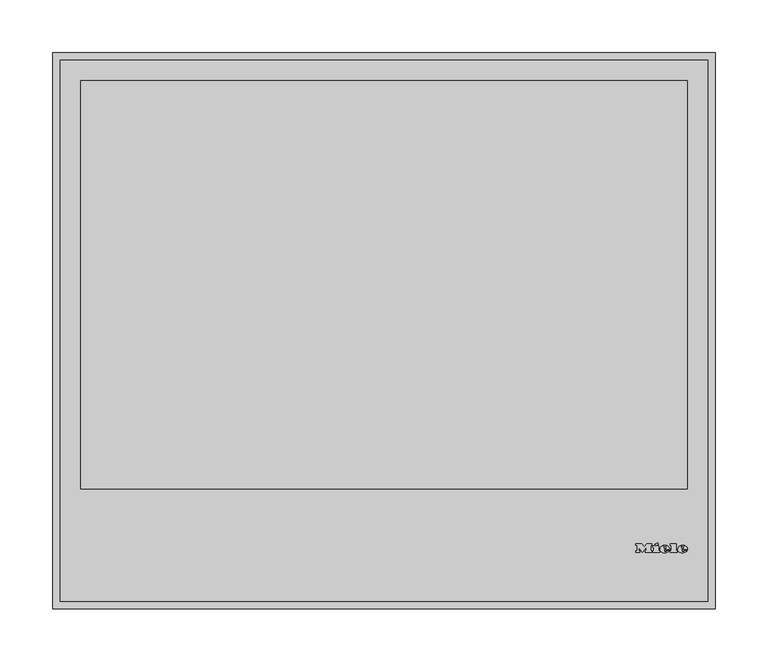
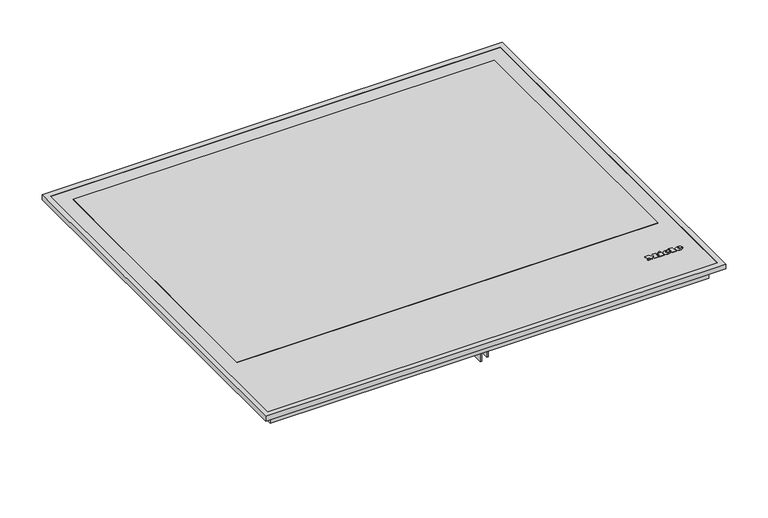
"""IFC4 building model written with IfcOpenShell, lengths in millimetres: proxy geometry, 11128710_D_KM7667FR : 26766700_D_11128710_KM7667FR."""

from ifc_helpers import new_model, si_unit, point, frame, frame_2d, origin, place, context, project, spatial, polyline, circle_curve, ellipse_curve, trimmed, segment, composite_curve, outline, extrude, faceted_brep, source, transform, mapped, element, save
from ifc_brep_helpers import plane_surface, cylinder_surface, revolved_surface, extruded_surface, advanced_brep


def specialty_equipment_535f46d4(model_context):
    return source(origin(), model_context, "Body", "SolidModel", [
        advanced_brep(
        [(281.56, 55.3948833, 6.4802537), (281.56, 56.2028828, 6.4811551), (286.912, 56.2028828, 6.4811551), (277.6, 56.2028828, 6.4811551), (279.8, 53.4988845, 6.4781386), (286.776, 55.3948833, 6.4802537), (284.36, 55.3948833, 6.4802537), (282.456, 54.4988838, 6.4792542), (281.56, 57.2268821, 6.4822974), (281.56, 58.0988816, 6.4832701), (282.928, 58.0988816, 6.4832701), (282.928, 57.2268821, 6.4822974), (281.56, 55.3959988, 5.4802543), (282.456, 54.4999994, 5.4792548), (284.36, 55.3959988, 5.4802543), (286.776, 55.3959988, 5.4802543), (279.8, 53.5, 5.4781393), (277.6, 56.2039983, 5.4811557), (286.912, 56.2039983, 5.4811557), (281.56, 56.2039983, 5.4811557), (281.56, 57.2279977, 5.482298), (282.928, 57.2279977, 5.482298), (282.928, 58.0999971, 5.4832707), (281.56, 58.0999971, 5.4832707)],
        [
            (0, 1),
            (1, 2),
            (2, 3, ellipse_curve(frame((282.256, 56.2028828, 6.4811551), z_axis=(0.0, -0.0011155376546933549, 0.9999993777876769), x_axis=(-1.0, 0.0, 0.0)), 4.656, 3.848)),
            (3, 4, circle_curve(frame((280.6960436, 56.4748826, 6.4814585), z_axis=(0.0, -0.0011155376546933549, 0.9999993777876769), x_axis=(0.0, -0.9999993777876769, -0.0011155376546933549)), 3.1079688)),
            (4, 5, circle_curve(frame((282.1627936, 58.5868813, 6.4838145), z_axis=(0.0, -0.0011155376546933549, 0.9999993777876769), x_axis=(0.0, -0.9999993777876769, -0.0011155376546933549)), 5.6098607)),
            (5, 6),
            (6, 7, circle_curve(frame((282.8470588, 56.1388828, 6.4810837), z_axis=(0.0, 0.0011155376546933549, -0.9999993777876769), x_axis=(0.0, -0.9999993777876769, -0.0011155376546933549)), 1.6859795)),
            (7, 0, circle_curve(frame((282.456, 55.3948833, 6.4802537), z_axis=(0.0, 0.0011155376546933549, -0.9999993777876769), x_axis=(0.0, -0.9999993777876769, -0.0011155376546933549)), 0.896)),
            (8, 9),
            (9, 10, circle_curve(frame((282.244, 58.0988816, 6.4832701), z_axis=(0.0, 0.0011155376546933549, -0.9999993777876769), x_axis=(0.0, -0.9999993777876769, -0.0011155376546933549)), 0.684)),
            (10, 11),
            (11, 8),
            (12, 13, circle_curve(frame((282.456, 55.3959988, 5.4802543), z_axis=(0.0, -0.0011155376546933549, 0.9999993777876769), x_axis=(0.0, -0.9999993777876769, -0.0011155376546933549)), 0.896)),
            (13, 14, circle_curve(frame((282.8470588, 56.1399984, 5.4810843), z_axis=(0.0, -0.0011155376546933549, 0.9999993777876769), x_axis=(0.0, -0.9999993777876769, -0.0011155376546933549)), 1.6859795)),
            (14, 15),
            (15, 16, circle_curve(frame((282.1627936, 58.5879968, 5.4838151), z_axis=(0.0, 0.0011155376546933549, -0.9999993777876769), x_axis=(0.0, -0.9999993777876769, -0.0011155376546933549)), 5.6098607)),
            (16, 17, circle_curve(frame((280.6960436, 56.4759981, 5.4814591), z_axis=(0.0, 0.0011155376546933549, -0.9999993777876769), x_axis=(0.0, -0.9999993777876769, -0.0011155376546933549)), 3.1079688)),
            (17, 18, ellipse_curve(frame((282.256, 56.2039983, 5.4811557), z_axis=(0.0, 0.0011155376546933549, -0.9999993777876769), x_axis=(-1.0, 0.0, 0.0)), 4.656, 3.848)),
            (18, 19),
            (19, 12),
            (20, 21),
            (21, 22),
            (22, 23, circle_curve(frame((282.244, 58.0999971, 5.4832707), z_axis=(0.0, -0.0011155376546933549, 0.9999993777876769), x_axis=(0.0, -0.9999993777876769, -0.0011155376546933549)), 0.684)),
            (23, 20),
            (0, 12),
            (19, 1),
            (18, 2),
            (5, 15),
            (14, 6),
            (17, 3),
            (13, 7),
            (16, 4),
            (8, 20),
            (23, 9),
            (22, 10),
            (21, 11),
        ],
        [
            plane_surface(frame((281.56, 56.2028828, 6.4811551), z_axis=(0.0, -0.0011155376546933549, 0.9999993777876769), x_axis=(0.0, 0.9999993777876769, 0.0011155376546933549))),
            plane_surface(frame((281.56, 56.2039983, 5.4811557), z_axis=(0.0, 0.0011155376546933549, -0.9999993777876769), x_axis=(0.0, -0.9999993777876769, -0.0011155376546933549))),
            plane_surface(frame((281.56, 55.3948833, 6.4802537), z_axis=(1.0000000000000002, 0.0, 0.0), x_axis=(0.0, 0.001115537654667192, -0.999999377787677))),
            plane_surface(frame((281.56, 56.2028828, 6.4811551), z_axis=(0.0, -0.999999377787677, -0.001115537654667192), x_axis=(0.0, 0.001115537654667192, -0.999999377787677))),
            plane_surface(frame((286.776, 55.3948833, 6.4802537), z_axis=(0.0, 0.999999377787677, 0.001115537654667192), x_axis=(0.0, 0.001115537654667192, -0.999999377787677))),
            extruded_surface(trimmed(ellipse_curve(frame((282.256, 56.2051139, 4.4811563), z_axis=(0.0, -0.0011155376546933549, 0.9999993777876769), x_axis=(-1.0, 0.0, 0.0)), 4.656, 3.848), [point((286.912, 56.2051139, 4.4811563))], [point((277.6, 56.2051139, 4.4811563))], True, "CARTESIAN"), (0.0, -0.001115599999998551, 0.9999994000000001), 1.00000002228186),
            revolved_surface(polyline([(282.8470588, 54.454019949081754, 5.479203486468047), (282.8470588, 54.45290441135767, 6.4792029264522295)]), (282.8470588, 56.1399984, 5.4810843), (0.0, 0.0011155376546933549, -0.9999993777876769)),
            revolved_surface(polyline([(282.456, 54.49999935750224, 5.479254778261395), (282.456, 54.49888381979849, 6.479254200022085)]), (282.456, 55.3959988, 5.4802543), (0.0, 0.0011155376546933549, -0.9999993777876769)),
            cylinder_surface(frame((280.6960436, 56.4759981, 5.4814591), z_axis=(0.0, -0.0011155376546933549, 0.9999993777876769), x_axis=(0.0, -0.9999993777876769, -0.0011155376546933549)), 3.1079688),
            cylinder_surface(frame((282.1627936, 58.5879968, 5.4838151), z_axis=(0.0, -0.0011155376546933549, 0.9999993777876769), x_axis=(0.0, -0.9999993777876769, -0.0011155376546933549)), 5.6098607),
            plane_surface(frame((281.56, 57.2268821, 6.4822974), z_axis=(1.0000000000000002, 0.0, 0.0), x_axis=(0.0, 0.001115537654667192, -0.999999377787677))),
            revolved_surface(polyline([(282.244, 57.415997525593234, 5.48250767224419), (282.244, 57.41488198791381, 6.482507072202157)]), (282.244, 58.0999971, 5.4832707), (0.0, 0.0011155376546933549, -0.9999993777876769)),
            plane_surface(frame((282.928, 58.0988816, 6.4832701), z_axis=(-1.0000000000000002, 0.0, 0.0), x_axis=(0.0, 0.001115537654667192, -0.999999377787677))),
            plane_surface(frame((282.928, 57.2268821, 6.4822974), z_axis=(0.0, 0.999999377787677, 0.001115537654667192), x_axis=(0.0, 0.001115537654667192, -0.999999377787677))),
        ],
        [
            (0, [[1, 2, 3, 4, 5, 6, 7, 8], [9, 10, 11, 12]]),
            (1, [[13, 14, 15, 16, 17, 18, 19, 20], [21, 22, 23, 24]]),
            (2, [[-1, 25, -20, 26]]),
            (3, [[-2, -26, -19, 27]]),
            (4, [[-6, 28, -15, 29]]),
            (5, [[-3, -27, -18, 30]]),
            (6, [[-7, -29, -14, 31]]),
            (7, [[-8, -31, -13, -25]]),
            (8, [[-4, -30, -17, 32]]),
            (9, [[-5, -32, -16, -28]]),
            (10, [[-9, 33, -24, 34]]),
            (11, [[-10, -34, -23, 35]]),
            (12, [[-11, -35, -22, 36]]),
            (13, [[-12, -36, -21, -33]]),
        ],
    ),
        advanced_brep(
        [(264.864, 55.3948833, 6.4802537), (264.864, 56.2028828, 6.4811551), (270.216, 56.2028828, 6.4811551), (260.904, 56.2028828, 6.4811551), (263.104, 53.4988845, 6.4781386), (270.08, 55.3948833, 6.4802537), (267.664, 55.3948833, 6.4802537), (265.76, 54.4988838, 6.4792542), (264.864, 57.2268821, 6.4822974), (264.864, 58.0988816, 6.4832701), (266.232, 58.0988816, 6.4832701), (266.232, 57.2268821, 6.4822974), (264.864, 55.3959988, 5.4802543), (265.76, 54.4999994, 5.4792548), (267.664, 55.3959988, 5.4802543), (270.08, 55.3959988, 5.4802543), (263.104, 53.5, 5.4781393), (260.904, 56.2039983, 5.4811557), (270.216, 56.2039983, 5.4811557), (264.864, 56.2039983, 5.4811557), (264.864, 57.2279977, 5.482298), (266.232, 57.2279977, 5.482298), (266.232, 58.0999971, 5.4832707), (264.864, 58.0999971, 5.4832707)],
        [
            (0, 1),
            (1, 2),
            (2, 3, ellipse_curve(frame((265.56, 56.2028828, 6.4811551), z_axis=(0.0, -0.0011155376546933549, 0.9999993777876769), x_axis=(-1.0, 0.0, 0.0)), 4.656, 3.848)),
            (3, 4, circle_curve(frame((264.0000436, 56.4748826, 6.4814585), z_axis=(0.0, -0.0011155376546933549, 0.9999993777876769), x_axis=(0.0, -0.9999993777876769, -0.0011155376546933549)), 3.1079688)),
            (4, 5, circle_curve(frame((265.4667936, 58.5868813, 6.4838145), z_axis=(0.0, -0.0011155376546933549, 0.9999993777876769), x_axis=(0.0, -0.9999993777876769, -0.0011155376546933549)), 5.6098607)),
            (5, 6),
            (6, 7, circle_curve(frame((266.1510588, 56.1388828, 6.4810837), z_axis=(0.0, 0.0011155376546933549, -0.9999993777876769), x_axis=(0.0, -0.9999993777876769, -0.0011155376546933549)), 1.6859795)),
            (7, 0, circle_curve(frame((265.76, 55.3948833, 6.4802537), z_axis=(0.0, 0.0011155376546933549, -0.9999993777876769), x_axis=(0.0, -0.9999993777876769, -0.0011155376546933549)), 0.896)),
            (8, 9),
            (9, 10, circle_curve(frame((265.548, 58.0988816, 6.4832701), z_axis=(0.0, 0.0011155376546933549, -0.9999993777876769), x_axis=(0.0, -0.9999993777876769, -0.0011155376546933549)), 0.684)),
            (10, 11),
            (11, 8),
            (12, 13, circle_curve(frame((265.76, 55.3959988, 5.4802543), z_axis=(0.0, -0.0011155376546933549, 0.9999993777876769), x_axis=(0.0, -0.9999993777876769, -0.0011155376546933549)), 0.896)),
            (13, 14, circle_curve(frame((266.1510588, 56.1399984, 5.4810843), z_axis=(0.0, -0.0011155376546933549, 0.9999993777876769), x_axis=(0.0, -0.9999993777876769, -0.0011155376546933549)), 1.6859795)),
            (14, 15),
            (15, 16, circle_curve(frame((265.4667936, 58.5879968, 5.4838151), z_axis=(0.0, 0.0011155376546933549, -0.9999993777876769), x_axis=(0.0, -0.9999993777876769, -0.0011155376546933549)), 5.6098607)),
            (16, 17, circle_curve(frame((264.0000436, 56.4759981, 5.4814591), z_axis=(0.0, 0.0011155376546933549, -0.9999993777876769), x_axis=(0.0, -0.9999993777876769, -0.0011155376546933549)), 3.1079688)),
            (17, 18, ellipse_curve(frame((265.56, 56.2039983, 5.4811557), z_axis=(0.0, 0.0011155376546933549, -0.9999993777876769), x_axis=(-1.0, 0.0, 0.0)), 4.656, 3.848)),
            (18, 19),
            (19, 12),
            (20, 21),
            (21, 22),
            (22, 23, circle_curve(frame((265.548, 58.0999971, 5.4832707), z_axis=(0.0, -0.0011155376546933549, 0.9999993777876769), x_axis=(0.0, -0.9999993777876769, -0.0011155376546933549)), 0.684)),
            (23, 20),
            (0, 12),
            (19, 1),
            (18, 2),
            (5, 15),
            (14, 6),
            (17, 3),
            (13, 7),
            (16, 4),
            (8, 20),
            (23, 9),
            (22, 10),
            (21, 11),
        ],
        [
            plane_surface(frame((264.864, 56.2028828, 6.4811551), z_axis=(0.0, -0.0011155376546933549, 0.9999993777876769), x_axis=(0.0, 0.9999993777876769, 0.0011155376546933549))),
            plane_surface(frame((264.864, 56.2039983, 5.4811557), z_axis=(0.0, 0.0011155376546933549, -0.9999993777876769), x_axis=(0.0, -0.9999993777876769, -0.0011155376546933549))),
            plane_surface(frame((264.864, 55.3948833, 6.4802537), z_axis=(1.0000000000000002, 0.0, 0.0), x_axis=(0.0, 0.001115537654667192, -0.999999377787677))),
            plane_surface(frame((264.864, 56.2028828, 6.4811551), z_axis=(0.0, -0.999999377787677, -0.001115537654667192), x_axis=(0.0, 0.001115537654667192, -0.999999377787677))),
            plane_surface(frame((270.08, 55.3948833, 6.4802537), z_axis=(0.0, 0.999999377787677, 0.001115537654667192), x_axis=(0.0, 0.001115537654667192, -0.999999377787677))),
            extruded_surface(trimmed(ellipse_curve(frame((265.56, 56.2051139, 4.4811563), z_axis=(0.0, -0.0011155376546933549, 0.9999993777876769), x_axis=(-1.0, 0.0, 0.0)), 4.656, 3.848), [point((270.216, 56.2051139, 4.4811563))], [point((260.904, 56.2051139, 4.4811563))], True, "CARTESIAN"), (0.0, -0.001115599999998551, 0.9999994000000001), 1.00000002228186),
            revolved_surface(polyline([(266.1510588, 54.454019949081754, 5.479203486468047), (266.1510588, 54.45290441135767, 6.4792029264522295)]), (266.1510588, 56.1399984, 5.4810843), (0.0, 0.0011155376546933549, -0.9999993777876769)),
            revolved_surface(polyline([(265.76, 54.49999935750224, 5.479254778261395), (265.76, 54.49888381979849, 6.479254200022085)]), (265.76, 55.3959988, 5.4802543), (0.0, 0.0011155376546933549, -0.9999993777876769)),
            cylinder_surface(frame((264.0000436, 56.4759981, 5.4814591), z_axis=(0.0, -0.0011155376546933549, 0.9999993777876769), x_axis=(0.0, -0.9999993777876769, -0.0011155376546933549)), 3.1079688),
            cylinder_surface(frame((265.4667936, 58.5879968, 5.4838151), z_axis=(0.0, -0.0011155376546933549, 0.9999993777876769), x_axis=(0.0, -0.9999993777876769, -0.0011155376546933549)), 5.6098607),
            plane_surface(frame((264.864, 57.2268821, 6.4822974), z_axis=(1.0000000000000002, 0.0, 0.0), x_axis=(0.0, 0.001115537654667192, -0.999999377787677))),
            revolved_surface(polyline([(265.548, 57.415997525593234, 5.48250767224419), (265.548, 57.41488198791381, 6.482507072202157)]), (265.548, 58.0999971, 5.4832707), (0.0, 0.0011155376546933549, -0.9999993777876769)),
            plane_surface(frame((266.232, 58.0988816, 6.4832701), z_axis=(-1.0000000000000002, 0.0, 0.0), x_axis=(0.0, 0.001115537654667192, -0.999999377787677))),
            plane_surface(frame((266.232, 57.2268821, 6.4822974), z_axis=(0.0, 0.999999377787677, 0.001115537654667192), x_axis=(0.0, 0.001115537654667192, -0.999999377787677))),
        ],
        [
            (0, [[1, 2, 3, 4, 5, 6, 7, 8], [9, 10, 11, 12]]),
            (1, [[13, 14, 15, 16, 17, 18, 19, 20], [21, 22, 23, 24]]),
            (2, [[-1, 25, -20, 26]]),
            (3, [[-2, -26, -19, 27]]),
            (4, [[-6, 28, -15, 29]]),
            (5, [[-3, -27, -18, 30]]),
            (6, [[-7, -29, -14, 31]]),
            (7, [[-8, -31, -13, -25]]),
            (8, [[-4, -30, -17, 32]]),
            (9, [[-5, -32, -16, -28]]),
            (10, [[-9, 33, -24, 34]]),
            (11, [[-10, -34, -23, 35]]),
            (12, [[-11, -35, -22, 36]]),
            (13, [[-12, -36, -21, -33]]),
        ],
    ),
        extrude(outline(polyline([(0.0, 0.0), (-0.0109086, -2.9993294), (-1.4390415, -2.9920868), (-1.4315307, 0.0), (0.0, 0.0)])), frame((256.12, 61.0279953, 5.486537), z_axis=(0.0, -0.001115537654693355, 0.999999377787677), x_axis=(-0.4247202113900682, 0.9053240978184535, 0.0010099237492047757)), (0.0, 0.0, 1.0), 1.0),
        extrude(outline(polyline([(-0.4933908, 2.4141097), (-2.7800844, -2.4601583), (-7.0459741, -0.4588767), (-7.4401145, -1.299018), (-8.6568709, -0.728194), (-5.9760369, 4.9862153), (-4.7592805, 4.4153913), (-5.1636142, 3.5535222), (-2.1941493, 2.1604399), (-1.7898157, 3.022309), (-0.4933908, 2.4141097)])), frame((256.12, 61.0279953, 5.486537), z_axis=(0.0, -0.001115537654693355, 0.999999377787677), x_axis=(-0.4247202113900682, 0.9053240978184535, 0.0010099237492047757)), (0.0, 0.0, 1.0), 1.0),
        extrude(outline(polyline([(0.0, 0.0), (0.0, -1.304), (-5.504, -1.304), (-5.504, 5.3519999), (-6.488, 5.3519999), (-6.488, 6.696), (0.0, 6.696), (0.0, 5.3519999), (-0.96, 5.3519999), (-0.96, 0.0), (0.0, 0.0)])), frame((270.664, 60.1959958, 5.4856089), z_axis=(0.0, -0.0011155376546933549, 0.9999993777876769), x_axis=(-1.0, 0.0, 0.0)), (0.0, 0.0, 1.0), 1.0),
        extrude(outline(polyline([(0.0, 0.0), (0.0, -1.304), (-5.576, -1.304), (-7.92, 1.696), (-10.256, -1.304), (-15.128, -1.304), (-15.128, 0.0), (-14.112, 0.0), (-14.112, 5.3519999), (-15.128, 5.3519999), (-15.128, 6.696), (-8.744, 6.696), (-8.744, 5.3519999), (-9.728, 5.3519999), (-9.728, 1.8807777), (-6.136, 6.696), (-2.56, 1.9488752), (-2.56, 5.3519999), (-3.52, 5.3519999), (-3.52, 6.696), (0.0, 6.696), (0.0, 5.3519999), (-0.968, 5.3519999), (-0.968, 0.0), (0.0, 0.0)])), frame((238.2, 60.1959958, 5.4856089), z_axis=(0.0, -0.0011155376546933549, 0.9999993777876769), x_axis=(-1.0, 0.0, 0.0)), (0.0, 0.0, 1.0), 1.0),
        extrude(outline(polyline([(210.7772603, 467.0), (203.4, 467.0), (203.4, 468.2557039), (209.5215564, 468.2557039), (209.5215564, 471.5519266), (203.870889, 471.5519266), (203.870889, 472.8076304), (209.5215564, 472.8076304), (209.5215564, 475.7899271), (203.556963, 475.7899271), (203.556963, 477.045631), (210.7772603, 477.045631), (210.7772603, 467.0)])), frame((0.0, 0.0, -77.5), z_axis=(0.0, 0.0, 1.0), x_axis=(1.0, 0.0, 0.0)), (0.0, 0.0, 1.0), 1.0),
        extrude(outline(polyline([(201.5164442, 467.0), (195.2379248, 467.0), (195.2379248, 468.2557039), (200.2607403, 468.2557039), (200.2607403, 477.045631), (201.5164442, 477.045631), (201.5164442, 467.0)])), frame((0.0, 0.0, -77.5), z_axis=(0.0, 0.0, 1.0), x_axis=(1.0, 0.0, 0.0)), (0.0, 0.0, 1.0), 1.0),
        extrude(outline(polyline([(17.0, -27.0), (17.0, -16.8), (65.5, -16.8), (65.5, -43.0), (33.0, -43.0), (33.0, -27.0), (17.0, -27.0)])), frame((-2.0, 0.0, 0.0), z_axis=(1.0, 0.0, 0.0), x_axis=(0.0, 1.0, 0.0)), (0.0, 0.0, 1.0), 2.0),
        extrude(outline(polyline([(493.0, -27.0), (493.0, -43.0), (485.5, -43.0), (485.5, -16.8), (509.0, -16.8), (509.0, -27.0), (493.0, -27.0)])), frame((-2.0, 0.0, 0.0), z_axis=(1.0, 0.0, 0.0), x_axis=(0.0, 1.0, 0.0)), (0.0, 0.0, 1.0), 2.0),
        extrude(outline(polyline([(265.5, 485.5), (265.5, 65.5), (-265.5, 65.5), (-265.5, 485.5), (265.5, 485.5)])), frame((0.0, 0.0, -46.5), z_axis=(0.0, 0.0, 1.0), x_axis=(1.0, 0.0, 0.0)), (0.0, 0.0, 1.0), 29.7),
        extrude(outline(polyline([(312.0, 524.0), (312.0, 1.0), (-312.0, 1.0), (-312.0, 524.0), (312.0, 524.0)])), frame((0.0, 0.0, 2.0), z_axis=(0.0, 0.0, 1.0), x_axis=(1.0, 0.0, 0.0)), (0.0, 0.0, 1.0), 4.0),
        extrude(outline(polyline([(298.5, 511.5), (298.5, 14.5), (-298.5, 14.5), (-298.5, 511.5), (298.5, 511.5)])), frame((0.0, 0.0, -16.8), z_axis=(0.0, 0.0, 1.0), x_axis=(1.0, 0.0, 0.0)), (0.0, 0.0, 1.0), 18.8),
        faceted_brep([(306.0, 519.0, 7.0), (306.0, 519.0, 6.0), (306.0, 7.0, 6.0), (306.0, 7.0, 7.0), (313.0, 526.0, 0.0), (313.0, 526.0, 7.0), (313.0, 0.0, 7.0), (313.0, 0.0, 0.0), (312.0, 525.0, 6.0), (312.0, 525.0, 0.0), (312.0, 1.0, 0.0), (312.0, 1.0, 6.0), (-306.0, 7.0, 6.0), (-306.0, 7.0, 7.0), (-313.0, 0.0, 7.0), (-313.0, 0.0, 0.0), (-312.0, 1.0, 0.0), (-312.0, 1.0, 6.0), (-306.0, 519.0, 6.0), (-306.0, 519.0, 7.0), (-313.0, 526.0, 7.0), (-313.0, 526.0, 0.0), (-312.0, 525.0, 0.0), (-312.0, 525.0, 6.0)], [[[0, 1, 2, 3]], [[4, 5, 6, 7]], [[8, 9, 10, 11]], [[3, 2, 12, 13]], [[7, 6, 14, 15]], [[11, 10, 16, 17]], [[13, 12, 18, 19]], [[15, 14, 20, 21]], [[17, 16, 22, 23]], [[19, 18, 1, 0]], [[5, 20, 14, 6], [3, 13, 19, 0]], [[21, 20, 5, 4]], [[7, 15, 21, 4], [9, 22, 16, 10]], [[23, 22, 9, 8]], [[11, 17, 23, 8], [1, 18, 12, 2]]]),
        extrude(outline(composite_curve([segment(trimmed(circle_curve(frame_2d((203.4, 472.0)), 7.5), [point((203.4, 479.5))], [point((203.4, 464.5))], False, "CARTESIAN"), True, "CONTINUOUS"), segment(trimmed(circle_curve(frame_2d((203.4, 472.0)), 7.5), [point((203.4, 464.5))], [point((203.4, 479.5))], False, "CARTESIAN"), True, "CONTINUOUS")], self_intersect=False)), frame((0.0, 0.0, -76.5), z_axis=(0.0, 0.0, 1.0), x_axis=(1.0, 0.0, 0.0)), (0.0, 0.0, 1.0), 30.0),
        extrude(outline(polyline([(286.5, 499.5), (286.5, 113.5), (-286.5, 113.5), (-286.5, 499.5), (286.5, 499.5)])), frame((0.0, 0.0, 6.0), z_axis=(0.0, 0.0, 1.0), x_axis=(1.0, 0.0, 0.0)), (0.0, 0.0, 1.0), 1.0),
        extrude(outline(composite_curve([segment(trimmed(circle_curve(frame_2d((-291.0, 83.0)), 3.0), [point((-291.0, 86.0))], [point((-291.0, 80.0))], False, "CARTESIAN"), True, "CONTINUOUS"), segment(trimmed(circle_curve(frame_2d((-291.0, 83.0)), 3.0), [point((-291.0, 80.0))], [point((-291.0, 86.0))], False, "CARTESIAN"), True, "CONTINUOUS")], self_intersect=False)), frame((0.0, 0.0, -22.0), z_axis=(0.0, 0.0, 1.0), x_axis=(1.0, 0.0, 0.0)), (0.0, 0.0, 1.0), 5.2),
        extrude(outline(composite_curve([segment(trimmed(circle_curve(frame_2d((291.0, 443.0)), 3.0), [point((291.0, 446.0))], [point((291.0, 440.0))], False, "CARTESIAN"), True, "CONTINUOUS"), segment(trimmed(circle_curve(frame_2d((291.0, 443.0)), 3.0), [point((291.0, 440.0))], [point((291.0, 446.0))], False, "CARTESIAN"), True, "CONTINUOUS")], self_intersect=False)), frame((0.0, 0.0, -22.0), z_axis=(0.0, 0.0, 1.0), x_axis=(1.0, 0.0, 0.0)), (0.0, 0.0, 1.0), 5.2),
    ])


if __name__ == "__main__":
    model = new_model("IFC4")
    model_context = context("Model", 3, world=origin())
    ifc_project = project(units=[si_unit("LENGTHUNIT", "METRE", prefix="MILLI")], contexts=[model_context])
    site = spatial("IfcSite", under=ifc_project)
    building = spatial("IfcBuilding", under=site)
    placement = place(None, origin())
    specialty_equipment_shape = specialty_equipment_535f46d4(model_context)
    element("IfcBuildingElementProxy", 1, Name="11128710_D_KM7667FR : 26766700_D_11128710_KM7667FR", ObjectType="11128710_D_KM7667FR : 26766700_D_11128710_KM7667FR", at=placement, inside=building, context=model_context, shape_type="MappedRepresentation", body=[
        mapped(specialty_equipment_shape, transform((0.0, 0.0, 0.0), x_axis=(1.0, 0.0, 0.0), y_axis=(0.0, 1.0, 0.0), z_axis=(0.0, 0.0, 1.0))),
    ])
    save(model, "model.ifc")
